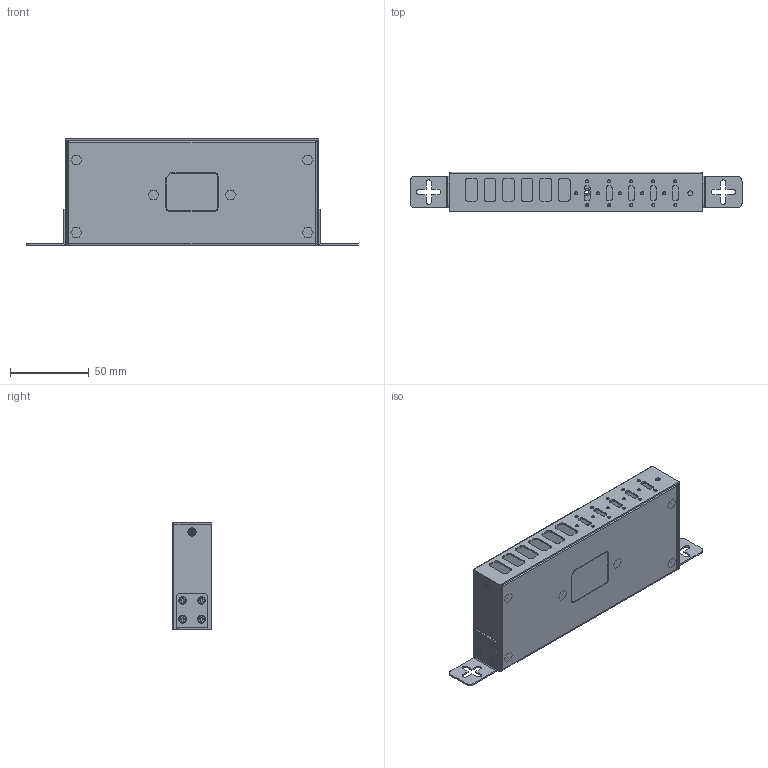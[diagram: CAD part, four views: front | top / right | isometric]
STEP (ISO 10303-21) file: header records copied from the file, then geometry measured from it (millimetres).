
FILE_DESCRIPTION(/* description */ (''),/* implementation_level */ '2;1');
FILE_NAME(/* name */ 'GM-HU310CA_CAD.step',/* time_stamp */ '2024-10-17T15:52:06-04:00',/* author */ (''),/* organization */ (''),/* preprocessor_version */ 'ST-DEVELOPER v20',/* originating_system */ 'Autodesk Translation Framework v13.20.0.188',/* authorisation */ '');
FILE_SCHEMA (('AUTOMOTIVE_DESIGN { 1 0 10303 214 3 1 1 }'));
Length unit declared in the file: millimetre
Products named in the file (16): HT2-CA46L_ASM_ASM; HT2-CA46L_ASM_59_ASM; HT2CA46L-TOP2-B_22; HT2CA46L-BOT-B_64_ASM; HT2CA46L-BOT-B_64_1; HT2CA46L-BOT-B_64_2; HT2CA46L-BOT-B_64_3; HT2CA46L-BOT-B_64_4; HT2CA46L-BOT-B_64_5; HT2CA46L-BOT-B_64_6; HT2CA46L-BOT-B_64_7; HT2CA46L-38-B_10; FM3X3_8CCRO-A_1_ASM; FM3X3_8CCRO-A_1_1; FM3X3_8CCRO-A_1_2; FM-3X3_8CCRO_1
Assembly tree (26 placements, depth 4):
  HT2-CA46L_ASM_ASM
    HT2-CA46L_ASM_59_ASM
      HT2CA46L-TOP2-B_22
      HT2CA46L-BOT-B_64_ASM
        HT2CA46L-BOT-B_64_1
        HT2CA46L-BOT-B_64_2
        HT2CA46L-BOT-B_64_3
        HT2CA46L-BOT-B_64_4
        HT2CA46L-BOT-B_64_5
        HT2CA46L-BOT-B_64_6
        HT2CA46L-BOT-B_64_7
      HT2CA46L-38-B_10  x2
      FM3X3_8CCRO-A_1_ASM  x4
        FM3X3_8CCRO-A_1_1
        FM3X3_8CCRO-A_1_2
      FM-3X3_8CCRO_1  x8
Bounding box: 211 x 25.02 x 68 mm (x, y, z)
Volume: 35810.7 mm3; surface area: 74568.4 mm2
Topology: 26 solids, 49 shells, 867 faces, 2225 edges, 1412 vertices
Faces by surface type: plane 479, cylinder 229, bspline 118, cone 34, torus 7
Full cylindrical faces by diameter (mm): 1.6 x15, 2 x15, 2.5 x21, 2.6 x16, 3 x9, 3.5 x1, 4 x2, 4.2 x8, 4.5 x7, 6 x6, 6.8 x1
Entity records: 22809 total; most frequent: CARTESIAN_POINT 8078, DIRECTION 2967, ORIENTED_EDGE 2800, EDGE_CURVE 1423, AXIS2_PLACEMENT_3D 1036, VERTEX_POINT 900, LINE 895, VECTOR 895
